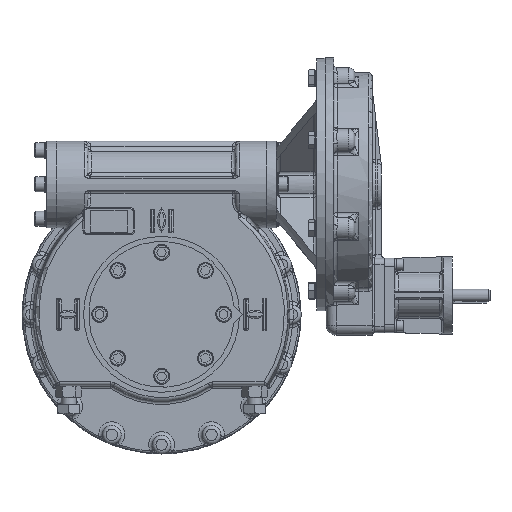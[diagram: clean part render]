
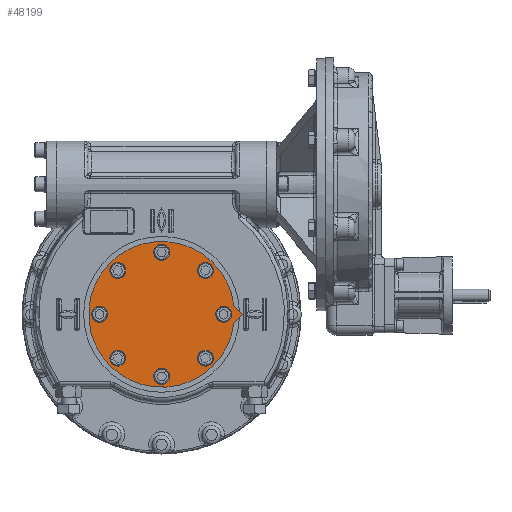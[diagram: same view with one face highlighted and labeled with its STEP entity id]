
A CAD part, top view. The second image highlights one B-rep face of the part: STEP entity #48199.
In plain terms, the highlighted planar face has unit normal (0, 0, 1).
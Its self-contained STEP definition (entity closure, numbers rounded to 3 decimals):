
#7375=LINE('',#115967,#11905);
#7377=LINE('',#115970,#11907);
#11905=VECTOR('',#64209,1000.);
#11907=VECTOR('',#64213,1000.);
#23885=ORIENTED_EDGE('',*,*,#32271,.F.);
#23886=ORIENTED_EDGE('',*,*,#32272,.F.);
#23887=ORIENTED_EDGE('',*,*,#32273,.F.);
#23888=ORIENTED_EDGE('',*,*,#32274,.F.);
#23889=ORIENTED_EDGE('',*,*,#32275,.F.);
#23890=ORIENTED_EDGE('',*,*,#32276,.F.);
#23891=ORIENTED_EDGE('',*,*,#32277,.F.);
#23892=ORIENTED_EDGE('',*,*,#32278,.F.);
#23893=ORIENTED_EDGE('',*,*,#32256,.T.);
#23894=ORIENTED_EDGE('',*,*,#32260,.T.);
#23895=ORIENTED_EDGE('',*,*,#32262,.T.);
#32256=EDGE_CURVE('',#38651,#38650,#40162,.T.);
#32260=EDGE_CURVE('',#38650,#38653,#7375,.T.);
#32262=EDGE_CURVE('',#38653,#38651,#7377,.T.);
#32271=EDGE_CURVE('',#38662,#38662,#40171,.T.);
#32272=EDGE_CURVE('',#38663,#38663,#40172,.T.);
#32273=EDGE_CURVE('',#38664,#38664,#40173,.T.);
#32274=EDGE_CURVE('',#38665,#38665,#40174,.T.);
#32275=EDGE_CURVE('',#38666,#38666,#40175,.T.);
#32276=EDGE_CURVE('',#38667,#38667,#40176,.T.);
#32277=EDGE_CURVE('',#38668,#38668,#40177,.T.);
#32278=EDGE_CURVE('',#38669,#38669,#40178,.T.);
#38650=VERTEX_POINT('',#115958);
#38651=VERTEX_POINT('',#115960);
#38653=VERTEX_POINT('',#115966);
#38662=VERTEX_POINT('',#115990);
#38663=VERTEX_POINT('',#115992);
#38664=VERTEX_POINT('',#115994);
#38665=VERTEX_POINT('',#115996);
#38666=VERTEX_POINT('',#115998);
#38667=VERTEX_POINT('',#116000);
#38668=VERTEX_POINT('',#116002);
#38669=VERTEX_POINT('',#116004);
#40162=CIRCLE('',#53280,117.5);
#40171=CIRCLE('',#53293,8.5);
#40172=CIRCLE('',#53294,8.5);
#40173=CIRCLE('',#53295,8.5);
#40174=CIRCLE('',#53296,8.5);
#40175=CIRCLE('',#53297,8.5);
#40176=CIRCLE('',#53298,8.5);
#40177=CIRCLE('',#53299,8.5);
#40178=CIRCLE('',#53300,8.5);
#42566=EDGE_LOOP('',(#23885));
#42567=EDGE_LOOP('',(#23886));
#42568=EDGE_LOOP('',(#23887));
#42569=EDGE_LOOP('',(#23888));
#42570=EDGE_LOOP('',(#23889));
#42571=EDGE_LOOP('',(#23890));
#42572=EDGE_LOOP('',(#23891));
#42573=EDGE_LOOP('',(#23892));
#42574=EDGE_LOOP('',(#23893,#23894,#23895));
#45000=FACE_BOUND('',#42566,.T.);
#45001=FACE_BOUND('',#42567,.T.);
#45002=FACE_BOUND('',#42568,.T.);
#45003=FACE_BOUND('',#42569,.T.);
#45004=FACE_BOUND('',#42570,.T.);
#45005=FACE_BOUND('',#42571,.T.);
#45006=FACE_BOUND('',#42572,.T.);
#45007=FACE_BOUND('',#42573,.T.);
#45008=FACE_BOUND('',#42574,.T.);
#46164=PLANE('',#53292);
#48199=ADVANCED_FACE('',(#45000,#45001,#45002,#45003,#45004,#45005,#45006,
#45007,#45008),#46164,.T.);
#53280=AXIS2_PLACEMENT_3D('',#115959,#64202,#64203);
#53292=AXIS2_PLACEMENT_3D('',#115988,#64232,#64233);
#53293=AXIS2_PLACEMENT_3D('',#115989,#64234,#64235);
#53294=AXIS2_PLACEMENT_3D('',#115991,#64236,#64237);
#53295=AXIS2_PLACEMENT_3D('',#115993,#64238,#64239);
#53296=AXIS2_PLACEMENT_3D('',#115995,#64240,#64241);
#53297=AXIS2_PLACEMENT_3D('',#115997,#64242,#64243);
#53298=AXIS2_PLACEMENT_3D('',#115999,#64244,#64245);
#53299=AXIS2_PLACEMENT_3D('',#116001,#64246,#64247);
#53300=AXIS2_PLACEMENT_3D('',#116003,#64248,#64249);
#64202=DIRECTION('',(0.,0.,1.));
#64203=DIRECTION('',(1.,0.,0.));
#64209=DIRECTION('',(0.707,0.707,0.));
#64213=DIRECTION('',(-0.707,0.707,0.));
#64232=DIRECTION('',(0.,0.,1.));
#64233=DIRECTION('',(0.,-1.,0.));
#64234=DIRECTION('',(0.,0.,1.));
#64235=DIRECTION('',(0.707,-0.707,0.));
#64236=DIRECTION('',(0.,0.,1.));
#64237=DIRECTION('',(1.,0.,0.));
#64238=DIRECTION('',(0.,0.,1.));
#64239=DIRECTION('',(0.707,0.707,0.));
#64240=DIRECTION('',(0.,0.,1.));
#64241=DIRECTION('',(0.,1.,0.));
#64242=DIRECTION('',(0.,0.,1.));
#64243=DIRECTION('',(-0.707,0.707,0.));
#64244=DIRECTION('',(0.,0.,1.));
#64245=DIRECTION('',(-1.,0.,0.));
#64246=DIRECTION('',(0.,0.,1.));
#64247=DIRECTION('',(-0.707,-0.707,0.));
#64248=DIRECTION('',(0.,0.,1.));
#64249=DIRECTION('',(0.,-1.,0.));
#115958=CARTESIAN_POINT('',(116.751,-13.249,65.25));
#115959=CARTESIAN_POINT('',(0.,0.,65.25));
#115960=CARTESIAN_POINT('',(116.751,13.249,65.25));
#115966=CARTESIAN_POINT('',(130.,0.,65.25));
#115967=CARTESIAN_POINT('',(116.751,-13.249,65.25));
#115970=CARTESIAN_POINT('',(130.,0.,65.25));
#115988=CARTESIAN_POINT('',(0.,0.,65.25));
#115989=CARTESIAN_POINT('',(70.711,70.711,65.25));
#115990=CARTESIAN_POINT('',(76.721,64.7,65.25));
#115991=CARTESIAN_POINT('',(0.,100.,65.25));
#115992=CARTESIAN_POINT('',(8.5,100.,65.25));
#115993=CARTESIAN_POINT('',(-70.711,70.711,65.25));
#115994=CARTESIAN_POINT('',(-64.7,76.721,65.25));
#115995=CARTESIAN_POINT('',(-100.,0.,65.25));
#115996=CARTESIAN_POINT('',(-100.,8.5,65.25));
#115997=CARTESIAN_POINT('',(-70.711,-70.711,65.25));
#115998=CARTESIAN_POINT('',(-76.721,-64.7,65.25));
#115999=CARTESIAN_POINT('',(0.,-100.,65.25));
#116000=CARTESIAN_POINT('',(-8.5,-100.,65.25));
#116001=CARTESIAN_POINT('',(70.711,-70.711,65.25));
#116002=CARTESIAN_POINT('',(64.7,-76.721,65.25));
#116003=CARTESIAN_POINT('',(100.,0.,65.25));
#116004=CARTESIAN_POINT('',(100.,-8.5,65.25));
